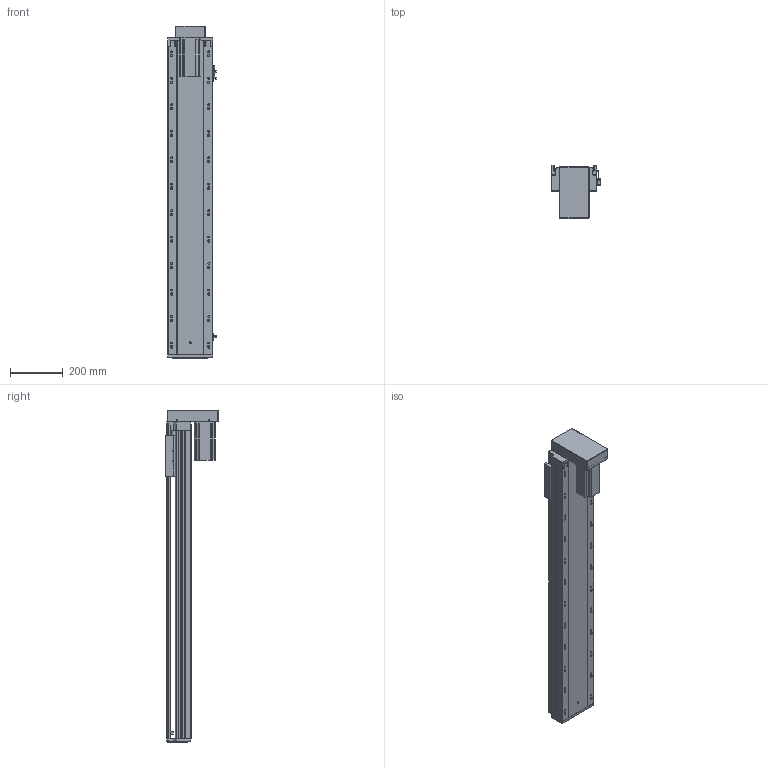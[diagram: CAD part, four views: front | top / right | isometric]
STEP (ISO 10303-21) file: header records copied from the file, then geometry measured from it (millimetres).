
FILE_DESCRIPTION (( 'STEP AP203' ), '1' );
FILE_NAME ('RY170-L2510-300-BK.SLDASM_950.step', '2021-03-12T08:58:37', ( '盈信电脑' ), ( '东莞市道滘镇水果街19号' ), 'SwSTEP 2.0', 'SolidWorks 2012', '' );
FILE_SCHEMA (( 'CONFIG_CONTROL_DESIGN' ));
Length unit declared in the file: millimetre
Products named in the file (14): RY170-L2510-300-BK.SLDASM_950; 怢湛750W萇儂ㄗ80遺ㄘ; RY170-狟殏750W萇儂傷; RY170狟殏萇儂欶; 滅袉蝶18-20; RY170转折电机端支撑座(7004); 滅袉蝶18-10; RY170-狟殏萇儂假蚾啣; 覜茼ん672; RY170外置感应片(200共用）; RY170綴裔啣; RY170-300倰第裔啣-BK_950; RY170-300倰第菁釱-BK_950; 改造-RY170铝滑块25丝杆螺母
Assembly tree (15 placements, depth 3):
  RY170-L2510-300-BK.SLDASM_950
    RY170-300倰第菁釱-BK_950
    改造-RY170铝滑块25丝杆螺母
    RY170-300倰第裔啣-BK_950
    RY170綴裔啣
    覜茼ん672  x3
    RY170外置感应片(200共用）
    滅袉蝶18-20
    滅袉蝶18-10
    RY170转折电机端支撑座(7004)
    RY170-狟殏750W萇儂傷
      RY170-狟殏萇儂假蚾啣
      RY170狟殏萇儂欶
      怢湛750W萇儂ㄗ80遺ㄘ
Bounding box: 183.7 x 200.8 x 1254.5 mm (x, y, z)
Volume: 6960965.9 mm3; surface area: 2166380 mm2
Topology: 14 solids, 14 shells, 2296 faces, 6709 edges, 4316 vertices
Faces by surface type: plane 1090, cylinder 1005, cone 182, bspline 19
Entity records: 76562 total; most frequent: CARTESIAN_POINT 19438, ORIENTED_EDGE 12146, DIRECTION 10967, EDGE_CURVE 6073, VERTEX_POINT 3996, AXIS2_PLACEMENT_3D 3683, LINE 3601, VECTOR 3601
